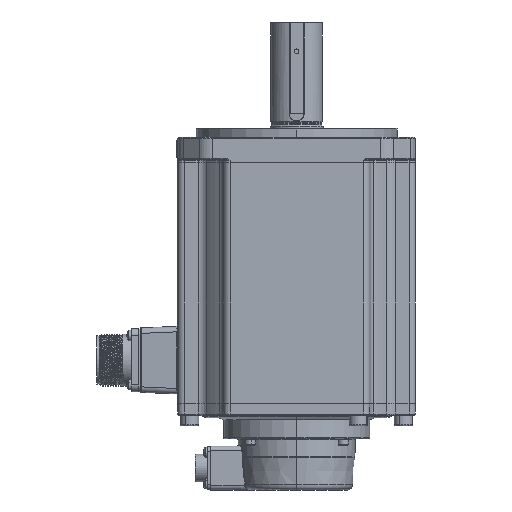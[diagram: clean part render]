
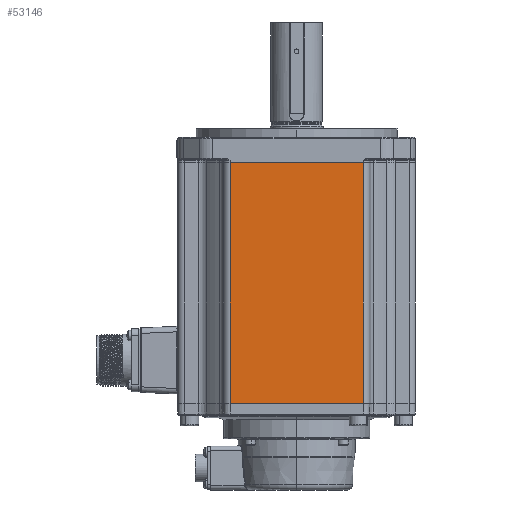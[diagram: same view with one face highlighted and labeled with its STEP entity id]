
A CAD part, left-side view. The second image highlights one B-rep face of the part: STEP entity #53146.
In plain terms, the highlighted planar face has unit normal (-1, 0, 0).
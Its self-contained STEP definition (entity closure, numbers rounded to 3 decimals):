
#3052 = LINE ( 'NONE', #60668, #81932 ) ;
#4181 = FACE_OUTER_BOUND ( 'NONE', #64579, .T. ) ;
#4679 = CARTESIAN_POINT ( 'NONE',  ( -65., 36.401, 131.4 ) ) ;
#10047 = ORIENTED_EDGE ( 'NONE', *, *, #67772, .T. ) ;
#11311 = LINE ( 'NONE', #19662, #53148 ) ;
#18267 = ORIENTED_EDGE ( 'NONE', *, *, #32015, .F. ) ;
#19662 = CARTESIAN_POINT ( 'NONE',  ( -65., 0., 0. ) ) ;
#29431 = DIRECTION ( 'NONE',  ( 0., 0., -1. ) ) ;
#30779 = CARTESIAN_POINT ( 'NONE',  ( -65., 36.401, 0. ) ) ;
#31511 = CARTESIAN_POINT ( 'NONE',  ( -65., -36.401, 131.4 ) ) ;
#32015 = EDGE_CURVE ( 'NONE', #38546, #61661, #45187, .T. ) ;
#33211 = DIRECTION ( 'NONE',  ( 0., 1., 0. ) ) ;
#35010 = DIRECTION ( 'NONE',  ( 0., -1., 0. ) ) ;
#37713 = VECTOR ( 'NONE', #62686, 1000. ) ;
#38546 = VERTEX_POINT ( 'NONE', #31511 ) ;
#38890 = AXIS2_PLACEMENT_3D ( 'NONE', #68112, #41041, #33211 ) ;
#41041 = DIRECTION ( 'NONE',  ( 1., 0., 0. ) ) ;
#45187 = LINE ( 'NONE', #52515, #77361 ) ;
#47892 = EDGE_CURVE ( 'NONE', #53326, #38546, #3052, .T. ) ;
#49148 = VERTEX_POINT ( 'NONE', #30779 ) ;
#51638 = DIRECTION ( 'NONE',  ( 0., -1., 0. ) ) ;
#52515 = CARTESIAN_POINT ( 'NONE',  ( -65., -36.401, 131.4 ) ) ;
#53146 = ADVANCED_FACE ( 'NONE', ( #4181 ), #80933, .F. ) ;
#53148 = VECTOR ( 'NONE', #51638, 1000. ) ;
#53326 = VERTEX_POINT ( 'NONE', #4679 ) ;
#54317 = LINE ( 'NONE', #78424, #37713 ) ;
#60668 = CARTESIAN_POINT ( 'NONE',  ( -65., 0., 131.4 ) ) ;
#61661 = VERTEX_POINT ( 'NONE', #87254 ) ;
#62686 = DIRECTION ( 'NONE',  ( 0., 0., -1. ) ) ;
#64041 = EDGE_CURVE ( 'NONE', #53326, #49148, #54317, .T. ) ;
#64579 = EDGE_LOOP ( 'NONE', ( #10047, #18267, #74436, #100881 ) ) ;
#67772 = EDGE_CURVE ( 'NONE', #49148, #61661, #11311, .T. ) ;
#68112 = CARTESIAN_POINT ( 'NONE',  ( -65., 0., 131.4 ) ) ;
#74436 = ORIENTED_EDGE ( 'NONE', *, *, #47892, .F. ) ;
#77361 = VECTOR ( 'NONE', #29431, 1000. ) ;
#78424 = CARTESIAN_POINT ( 'NONE',  ( -65., 36.401, 131.4 ) ) ;
#80933 = PLANE ( 'NONE',  #38890 ) ;
#81932 = VECTOR ( 'NONE', #35010, 1000. ) ;
#87254 = CARTESIAN_POINT ( 'NONE',  ( -65., -36.401, 0. ) ) ;
#100881 = ORIENTED_EDGE ( 'NONE', *, *, #64041, .T. ) ;
